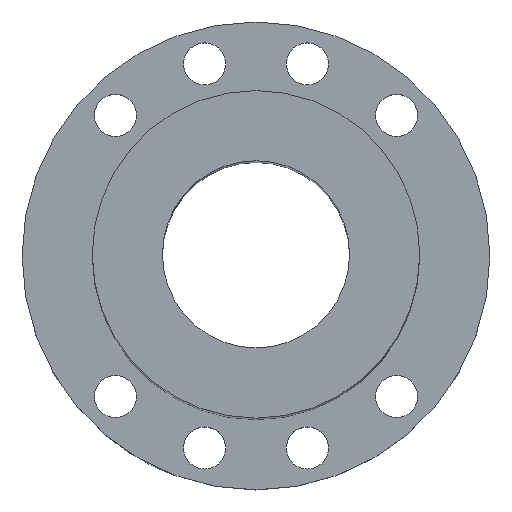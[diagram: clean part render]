
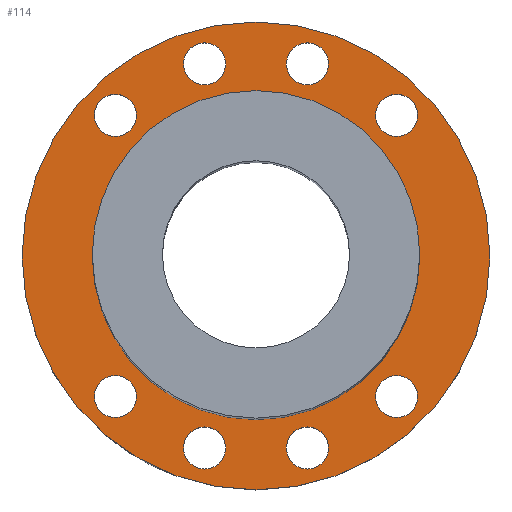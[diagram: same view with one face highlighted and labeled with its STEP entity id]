
A CAD part, top view. The second image highlights one B-rep face of the part: STEP entity #114.
In plain terms, the highlighted planar face has unit normal (0, 0, 1).
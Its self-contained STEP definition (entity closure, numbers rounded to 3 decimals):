
#99=PLANE('',#401);
#114=ADVANCED_FACE('',(#169,#170,#171,#172,#173,#174,#175,#176,#177,#178),
#99,.T.);
#169=FACE_BOUND('',#221,.T.);
#170=FACE_BOUND('',#222,.T.);
#171=FACE_BOUND('',#223,.T.);
#172=FACE_BOUND('',#224,.T.);
#173=FACE_BOUND('',#225,.T.);
#174=FACE_BOUND('',#226,.T.);
#175=FACE_BOUND('',#227,.T.);
#176=FACE_BOUND('',#228,.T.);
#177=FACE_BOUND('',#229,.T.);
#178=FACE_BOUND('',#230,.T.);
#221=EDGE_LOOP('',(#273));
#222=EDGE_LOOP('',(#274));
#223=EDGE_LOOP('',(#275));
#224=EDGE_LOOP('',(#276));
#225=EDGE_LOOP('',(#277));
#226=EDGE_LOOP('',(#278));
#227=EDGE_LOOP('',(#279));
#228=EDGE_LOOP('',(#280));
#229=EDGE_LOOP('',(#281));
#230=EDGE_LOOP('',(#282));
#273=ORIENTED_EDGE('',*,*,#316,.T.);
#274=ORIENTED_EDGE('',*,*,#337,.T.);
#275=ORIENTED_EDGE('',*,*,#336,.F.);
#276=ORIENTED_EDGE('',*,*,#335,.F.);
#277=ORIENTED_EDGE('',*,*,#318,.T.);
#278=ORIENTED_EDGE('',*,*,#334,.T.);
#279=ORIENTED_EDGE('',*,*,#333,.F.);
#280=ORIENTED_EDGE('',*,*,#332,.T.);
#281=ORIENTED_EDGE('',*,*,#331,.F.);
#282=ORIENTED_EDGE('',*,*,#338,.T.);
#290=VERTEX_POINT('',#495);
#292=VERTEX_POINT('',#557);
#305=VERTEX_POINT('',#644);
#306=VERTEX_POINT('',#647);
#307=VERTEX_POINT('',#650);
#308=VERTEX_POINT('',#653);
#309=VERTEX_POINT('',#656);
#310=VERTEX_POINT('',#659);
#311=VERTEX_POINT('',#662);
#312=VERTEX_POINT('',#665);
#316=EDGE_CURVE('',#290,#290,#342,.T.);
#318=EDGE_CURVE('',#292,#292,#343,.T.);
#331=EDGE_CURVE('',#305,#305,#355,.T.);
#332=EDGE_CURVE('',#306,#306,#356,.T.);
#333=EDGE_CURVE('',#307,#307,#357,.T.);
#334=EDGE_CURVE('',#308,#308,#358,.T.);
#335=EDGE_CURVE('',#309,#309,#359,.T.);
#336=EDGE_CURVE('',#310,#310,#360,.T.);
#337=EDGE_CURVE('',#311,#311,#361,.T.);
#338=EDGE_CURVE('',#312,#312,#362,.T.);
#342=CIRCLE('',#367,50.);
#343=CIRCLE('',#369,35.);
#355=CIRCLE('',#385,4.5);
#356=CIRCLE('',#387,4.5);
#357=CIRCLE('',#389,4.5);
#358=CIRCLE('',#391,4.5);
#359=CIRCLE('',#393,4.5);
#360=CIRCLE('',#395,4.5);
#361=CIRCLE('',#397,4.5);
#362=CIRCLE('',#399,4.5);
#367=AXIS2_PLACEMENT_3D('',#494,#411,#412);
#369=AXIS2_PLACEMENT_3D('',#556,#415,#416);
#385=AXIS2_PLACEMENT_3D('',#643,#447,#448);
#387=AXIS2_PLACEMENT_3D('',#646,#451,#452);
#389=AXIS2_PLACEMENT_3D('',#649,#455,#456);
#391=AXIS2_PLACEMENT_3D('',#652,#459,#460);
#393=AXIS2_PLACEMENT_3D('',#655,#463,#464);
#395=AXIS2_PLACEMENT_3D('',#658,#467,#468);
#397=AXIS2_PLACEMENT_3D('',#661,#471,#472);
#399=AXIS2_PLACEMENT_3D('',#664,#475,#476);
#401=AXIS2_PLACEMENT_3D('',#667,#479,#480);
#411=DIRECTION('',(0.,0.,1.));
#412=DIRECTION('',(1.,0.,0.));
#415=DIRECTION('',(0.,0.,-1.));
#416=DIRECTION('',(1.,0.,0.));
#447=DIRECTION('',(0.,0.,1.));
#448=DIRECTION('',(-1.,0.,0.));
#451=DIRECTION('',(0.,0.,-1.));
#452=DIRECTION('',(-1.,0.,0.));
#455=DIRECTION('',(0.,0.,1.));
#456=DIRECTION('',(1.,0.,0.));
#459=DIRECTION('',(0.,0.,-1.));
#460=DIRECTION('',(1.,0.,0.));
#463=DIRECTION('',(0.,0.,1.));
#464=DIRECTION('',(1.,0.,0.));
#467=DIRECTION('',(0.,0.,1.));
#468=DIRECTION('',(-1.,0.,0.));
#471=DIRECTION('',(0.,0.,-1.));
#472=DIRECTION('',(-1.,0.,0.));
#475=DIRECTION('',(0.,0.,-1.));
#476=DIRECTION('',(1.,0.,0.));
#479=DIRECTION('',(0.,0.,1.));
#480=DIRECTION('',(1.,0.,0.));
#494=CARTESIAN_POINT('',(0.,0.,14.));
#495=CARTESIAN_POINT('',(50.,0.,14.));
#556=CARTESIAN_POINT('',(0.,0.,14.));
#557=CARTESIAN_POINT('',(35.,0.,14.));
#643=CARTESIAN_POINT('',(11.,-41.052,14.));
#644=CARTESIAN_POINT('',(6.5,-41.052,14.));
#646=CARTESIAN_POINT('',(11.,41.052,14.));
#647=CARTESIAN_POINT('',(6.5,41.052,14.));
#649=CARTESIAN_POINT('',(-30.052,30.052,14.));
#650=CARTESIAN_POINT('',(-25.552,30.052,14.));
#652=CARTESIAN_POINT('',(-30.052,-30.052,14.));
#653=CARTESIAN_POINT('',(-25.552,-30.052,14.));
#655=CARTESIAN_POINT('',(-11.,41.052,14.));
#656=CARTESIAN_POINT('',(-6.5,41.052,14.));
#658=CARTESIAN_POINT('',(30.052,-30.052,14.));
#659=CARTESIAN_POINT('',(25.552,-30.052,14.));
#661=CARTESIAN_POINT('',(30.052,30.052,14.));
#662=CARTESIAN_POINT('',(25.552,30.052,14.));
#664=CARTESIAN_POINT('',(-11.,-41.052,14.));
#665=CARTESIAN_POINT('',(-6.5,-41.052,14.));
#667=CARTESIAN_POINT('',(15.026,15.026,14.));
